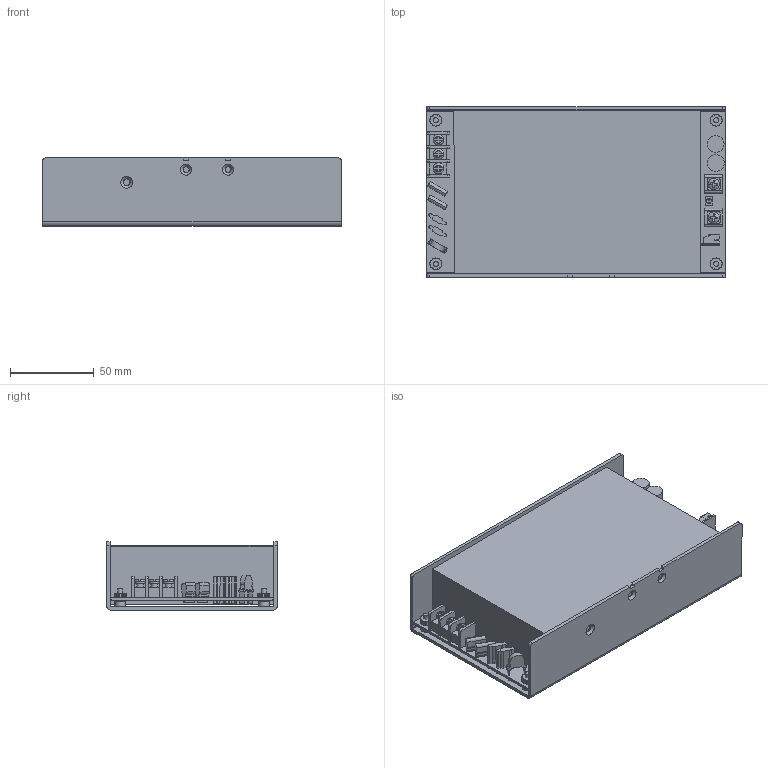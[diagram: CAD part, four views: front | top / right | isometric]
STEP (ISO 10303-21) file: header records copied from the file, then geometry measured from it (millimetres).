
FILE_DESCRIPTION(/* description */ ('STEP AP203'),/* implementation_level */ '2;1');
FILE_NAME(/* name */ 'NCF660S12K',/* time_stamp */ '2026-01-06T11:29:04+01:00',/* author */ ('License CC BY-ND 4.0'),/* organization */ ('CADENAS'),/* preprocessor_version */ 'ST-DEVELOPER v20',/* originating_system */ 'PARTsolutions',/* authorisation */ ' ');
FILE_SCHEMA (('CONFIG_CONTROL_DESIGN'));
Products named in the file (43): NCF660S12K; NCF660S12K_PART1; NCF660S12K_PART2; NCF660S12K_PART3; NCF660S12K_PART4; NCF660S12K_PART5; NCF660S12K_PART6; NCF660S12K_PART7; NCF660S12K_PART8; NCF660S12K_PART9; NCF660S12K_PART10; NCF660S12K_PART11; NCF660S12K_PART12; NCF660S12K_PART13; NCF660S12K_PART14; NCF660S12K_PART15; NCF660S12K_PART16; NCF660S12K_PART17; NCF660S12K_PART18; NCF660S12K_PART19; NCF660S12K_PART20; NCF660S12K_PART21; NCF660S12K_PART22; NCF660S12K_PART23; NCF660S12K_PART24; NCF660S12K_PART25; NCF660S12K_PART26; NCF660S12K_PART27; NCF660S12K_PART28; NCF660S12K_PART29; NCF660S12K_PART30; NCF660S12K_PART31; NCF660S12K_PART32; NCF660S12K_PART33; NCF660S12K_PART34; NCF660S12K_PART35; NCF660S12K_PART36; NCF660S12K_PART37; NCF660S12K_PART38; NCF660S12K_PART39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
Assembly tree (42 placements, depth 2):
  NCF660S12K
    NCF660S12K_PART1
    NCF660S12K_PART2
    NCF660S12K_PART3
    NCF660S12K_PART4
    NCF660S12K_PART5
    NCF660S12K_PART6
    NCF660S12K_PART7
    NCF660S12K_PART8
    NCF660S12K_PART9
    NCF660S12K_PART10
    NCF660S12K_PART11
    NCF660S12K_PART12
    NCF660S12K_PART13
    NCF660S12K_PART14
    NCF660S12K_PART15
    NCF660S12K_PART16
    NCF660S12K_PART17
    NCF660S12K_PART18
    NCF660S12K_PART19
    NCF660S12K_PART20
    NCF660S12K_PART21
    NCF660S12K_PART22
    NCF660S12K_PART23
    NCF660S12K_PART24
    NCF660S12K_PART25
    NCF660S12K_PART26
    NCF660S12K_PART27
    NCF660S12K_PART28
    NCF660S12K_PART29
    NCF660S12K_PART30
    NCF660S12K_PART31
    NCF660S12K_PART32
    NCF660S12K_PART33
    NCF660S12K_PART34
    NCF660S12K_PART35
    NCF660S12K_PART36
    NCF660S12K_PART37
    NCF660S12K_PART38
    NCF660S12K_PART39
    NCF660S12K_PART40
    NCF660S12K_PART41
    NCF660S12K_PART42
Bounding box: 178 x 101.6 x 40.6 mm (x, y, z)
Volume: 596136.8 mm3; surface area: 158365.9 mm2
Topology: 42 solids, 42 shells, 2188 faces, 6159 edges, 4083 vertices
Faces by surface type: plane 1694, cylinder 449, bspline 24, cone 11, torus 8, sphere 2
Full cylindrical faces by diameter (mm): 2 x1, 2.5 x4, 3 x9, 3.2 x2, 3.251 x4, 3.5 x2, 3.81 x3, 4 x1, 4.2 x4, 4.3 x4, 5 x2, 6.35 x7, 6.7 x2, 10 x2
Entity records: 70921 total; most frequent: CARTESIAN_POINT 12873, ORIENTED_EDGE 12152, DIRECTION 11626, EDGE_CURVE 6076, LINE 4768, VECTOR 4768, VERTEX_POINT 4064, AXIS2_PLACEMENT_3D 3429
